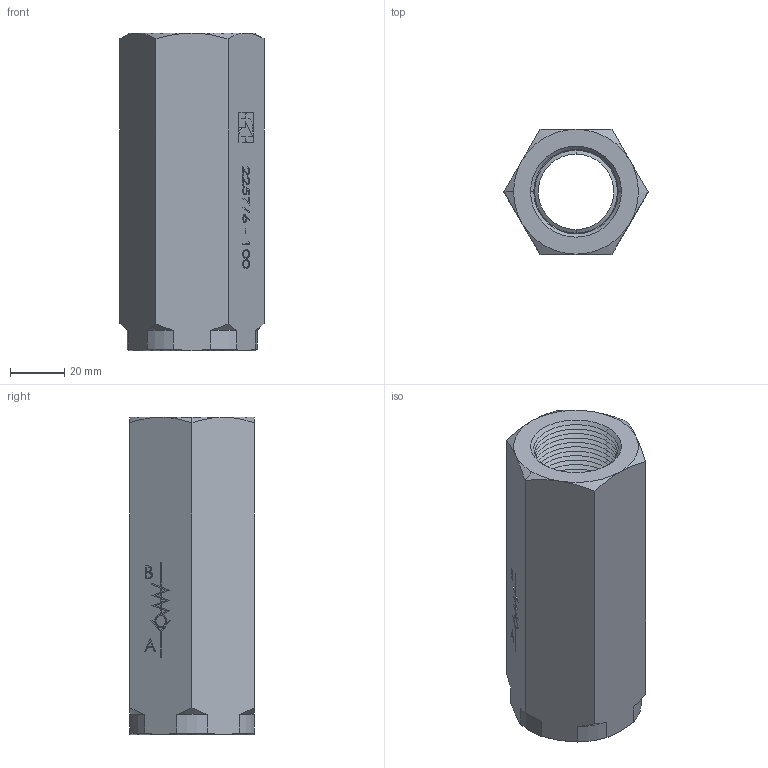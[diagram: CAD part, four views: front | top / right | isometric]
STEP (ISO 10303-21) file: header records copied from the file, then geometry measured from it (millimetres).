
FILE_DESCRIPTION (( 'STEP AP214' ), '1' );
FILE_NAME ('2257-6-100.STEP', '2015-04-08T20:10:26', ( '' ), ( '' ), 'SwSTEP 2.0', 'SolidWorks 2014', '' );
FILE_SCHEMA (( 'AUTOMOTIVE_DESIGN' ));
Length unit declared in the file: millimetre
Products named in the file (1): 2257-6-100
Bounding box: 53.12 x 46 x 117 mm (x, y, z)
Surface area: 27255.6 mm2 (no closed solid volume)
Topology: 0 solids, 8 shells, 304 faces, 857 edges, 552 vertices
Faces by surface type: plane 142, cone 99, bspline 45, cylinder 18
Entity records: 16403 total; most frequent: CARTESIAN_POINT 5599, ORIENTED_EDGE 1534, DIRECTION 1379, EDGE_CURVE 857, VECTOR 559, LINE 559, VERTEX_POINT 552, AXIS2_PLACEMENT_3D 410
